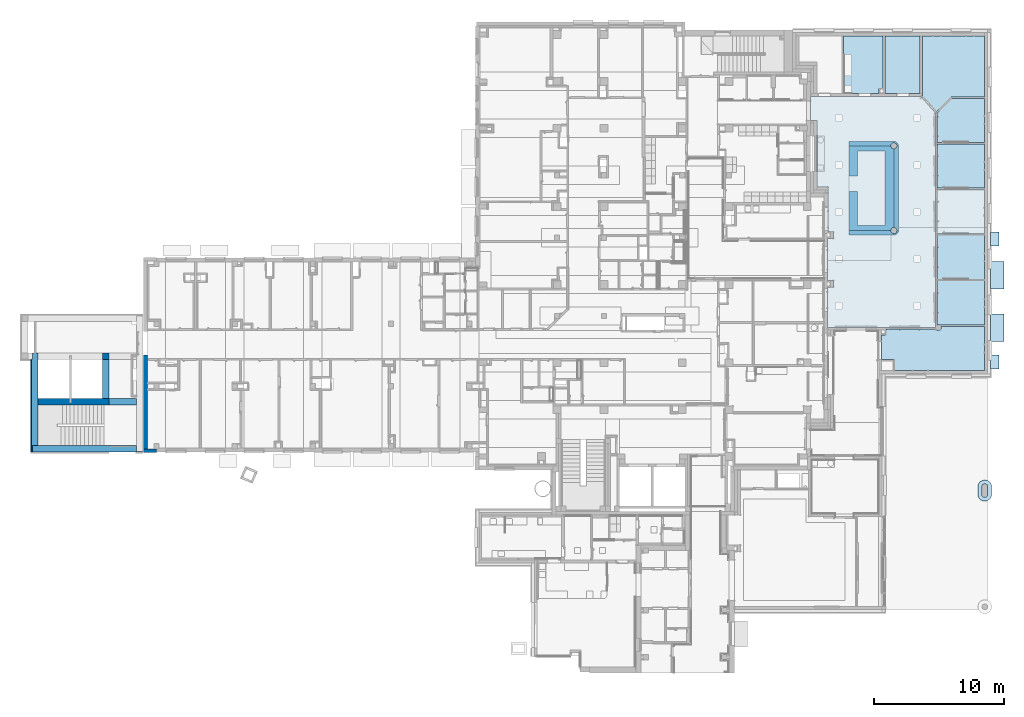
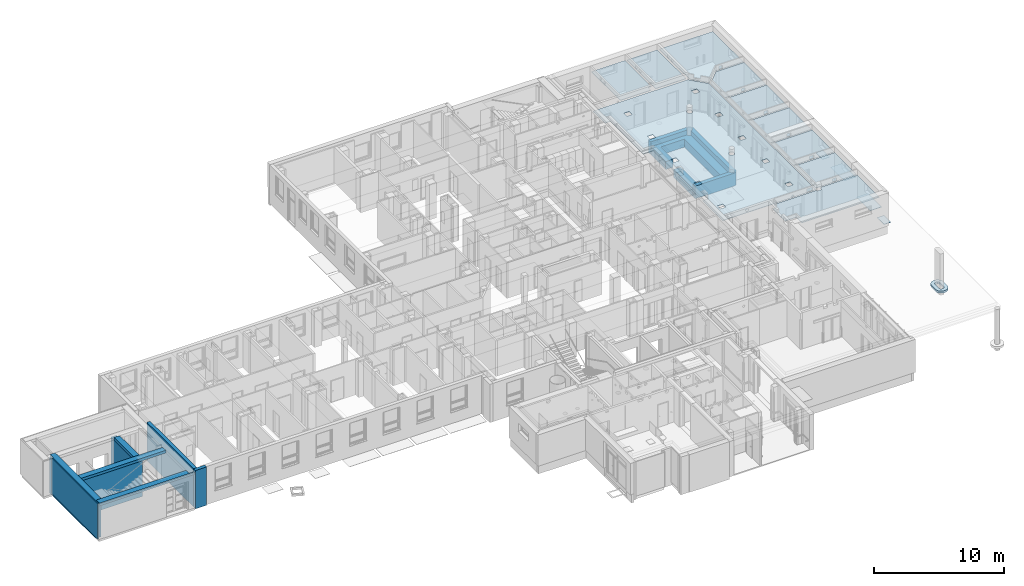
# One storey, part 13 of 140: 17 slabs, 9 walls.
"""IFC4 building model written with IfcOpenShell, lengths in metres."""

from ifc_helpers import new_model, entity, si_unit, converted_unit, derived_unit, frame, frame_2d, origin, origin_with_axes, place, context, subcontext, project, spatial, polyline, rectangle, outline, extrude, clip, bounded_halfspace, material, layer, layer_set, layer_usage, element, save


model = new_model("IFC4")

# Units and contexts
model_context = context("Model", 3, precision=1e-05, world=origin())
body_context = subcontext(model_context, "Body", "Model", "MODEL_VIEW")
ifc_project = project(units=[si_unit("LENGTHUNIT", "METRE"), si_unit("AREAUNIT", "SQUARE_METRE"), si_unit("VOLUMEUNIT", "CUBIC_METRE"), si_unit("MASSUNIT", "GRAM", prefix="KILO"), converted_unit("PLANEANGLEUNIT", "DEGREE", entity("IfcPlaneAngleMeasure", 0.0174532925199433), si_unit("PLANEANGLEUNIT", "RADIAN"), dimensions=[0, 0, 0, 0, 0, 0, 0]), derived_unit("THERMALTRANSMITTANCEUNIT", [(si_unit("POWERUNIT", "WATT"), 1), (si_unit("THERMODYNAMICTEMPERATUREUNIT", "KELVIN"), -1), (si_unit("LENGTHUNIT", "METRE"), -2)]), derived_unit("VOLUMETRICFLOWRATEUNIT", [(si_unit("LENGTHUNIT", "METRE"), 3), (converted_unit("TIMEUNIT", "hour", entity("IfcTimeMeasure", 3600.0), si_unit("TIMEUNIT", "SECOND"), dimensions=[0, 0, 1, 0, 0, 0, 0]), -1), (si_unit("LENGTHUNIT", "METRE"), -1)])], contexts=[model_context])

# Site, building, storey
site_placement = place(None, origin())
site = spatial("IfcSite", under=ifc_project, at=site_placement, Name="3. ASŘ", CompositionType="ELEMENT")
building_placement = place(site_placement, origin())
building = spatial("IfcBuilding", under=site, at=building_placement, Name="Pavilon C", CompositionType="ELEMENT")
storey_placement = place(building_placement, origin())
storey = spatial("IfcBuildingStorey", under=building, at=storey_placement, Name="Půdorys 1.NP", CompositionType="ELEMENT", Elevation=0.0)

# Slabs
ifc_material_1 = material(Name="KRYCÍ ROŠT ANGLICKÉHO DVORKU")
slab_1_placement = place(storey_placement, frame((64.02, 8.845, 0.0)))
element("IfcSlab", 1, at=slab_1_placement, inside=storey, material=ifc_material_1, PredefinedType="FLOOR", context=body_context, shape_type="SweptSolid", body=[
    extrude(rectangle(XDim=1.03000000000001, YDim=2.10999999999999, at=frame_2d((0.514999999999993, 1.05499999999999), x_axis=(1.0, 0.0))), frame((2.18278728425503e-14, 0.0, 0.0), z_axis=(0.0, 0.0, 1.0), x_axis=(1.0, 0.0, 0.0)), (0.0, 0.0, 1.0), 0.03),
])
ifc_material_2 = material(Name="KRYCÍ ROŠT ANGLICKÉHO DVORKU")
slab_2_placement = place(storey_placement, frame((64.02, 12.845, 0.39)))
element("IfcSlab", 2, at=slab_2_placement, inside=storey, material=ifc_material_2, PredefinedType="FLOOR", context=body_context, shape_type="SweptSolid", body=[
    extrude(rectangle(XDim=1.02999999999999, YDim=2.10999999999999, at=frame_2d((0.514999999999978, 1.05499999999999), x_axis=(1.0, -1.41280730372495e-14))), frame((2.18278728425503e-14, 1.45519152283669e-14, 0.0), z_axis=(0.0, 0.0, 1.0), x_axis=(1.0, 0.0, 0.0)), (0.0, 0.0, 1.0), 0.03),
])
ifc_material_3 = material(Name="KRYCÍ ROŠT ANGLICKÉHO DVORKU")
slab_3_placement = place(storey_placement, frame((64.02, 16.17, 0.39)))
element("IfcSlab", 3, at=slab_3_placement, inside=storey, material=ifc_material_3, PredefinedType="FLOOR", context=body_context, shape_type="SweptSolid", body=[
    extrude(rectangle(XDim=0.629999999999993, YDim=1.05999999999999, at=frame_2d((0.314999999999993, 0.529999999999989), x_axis=(1.0, -1.15491390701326e-14))), frame((2.18278728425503e-14, 7.27595761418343e-15, 0.0), z_axis=(0.0, 0.0, 1.0), x_axis=(1.0, 0.0, 0.0)), (0.0, 0.0, 1.0), 0.03),
])
ifc_material_4 = material(Name="KRYCÍ ROŠT ANGLICKÉHO DVORKU")
slab_4_placement = place(storey_placement, frame((64.02, 6.71999999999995, 0.0)))
element("IfcSlab", 4, at=slab_4_placement, inside=storey, material=ifc_material_4, PredefinedType="FLOOR", context=body_context, shape_type="SweptSolid", body=[
    extrude(rectangle(XDim=0.629999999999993, YDim=1.05999999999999, at=frame_2d((0.314999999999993, 0.529999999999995), x_axis=(1.0, 8.66185430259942e-15))), frame((1.45519152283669e-14, 0.0, 0.0), z_axis=(0.0, 0.0, 1.0), x_axis=(1.0, 0.0, 0.0)), (0.0, 0.0, 1.0), 0.03),
])
ifc_material_5 = material(Name="POHLEDOVY BETON")
slab_5_placement = place(storey_placement, frame((63.05, -3.41000000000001, -0.1)))
element("IfcSlab", 5, at=slab_5_placement, inside=storey, material=ifc_material_5, PredefinedType="FLOOR", context=body_context, shape_type="SweptSolid", body=[
    extrude(outline(polyline([(1.02974648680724, 1.24086627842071), (1.00481599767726, 1.30770750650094), (0.970626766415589, 1.3703204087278), (0.927874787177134, 1.42743036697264), (0.877430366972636, 1.47787478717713), (0.820320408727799, 1.52062676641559), (0.757707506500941, 1.55481599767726), (0.690866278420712, 1.57974648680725), (0.621157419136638, 1.59491072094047), (0.55, 1.6), (0.5, 1.6), (0.428842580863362, 1.59491072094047), (0.359133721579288, 1.57974648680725), (0.292292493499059, 1.55481599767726), (0.229679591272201, 1.52062676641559), (0.172569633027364, 1.47787478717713), (0.122125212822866, 1.42743036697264), (0.0793732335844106, 1.3703204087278), (0.0451840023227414, 1.30770750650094), (0.020253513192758, 1.24086627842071), (0.00508927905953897, 1.17115741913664), (0.0, 1.1), (0.0, 0.5), (0.00508927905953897, 0.428842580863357), (0.020253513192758, 0.359133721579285), (0.0451840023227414, 0.292292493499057), (0.0793732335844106, 0.229679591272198), (0.122125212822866, 0.172569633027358), (0.172569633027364, 0.122125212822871), (0.229679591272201, 0.0793732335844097), (0.292292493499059, 0.0451840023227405), (0.359133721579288, 0.0202535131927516), (0.428842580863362, 0.00508927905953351), (0.5, 0.0), (0.55, 0.0), (0.621157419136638, 0.00508927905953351), (0.690866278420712, 0.0202535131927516), (0.757707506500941, 0.0451840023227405), (0.820320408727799, 0.0793732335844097), (0.877430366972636, 0.122125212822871), (0.927874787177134, 0.172569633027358), (0.970626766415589, 0.229679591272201), (1.00481599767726, 0.292292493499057), (1.02974648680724, 0.359133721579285), (1.04491072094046, 0.428842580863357), (1.05, 0.5), (1.05, 1.1), (1.04491072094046, 1.17115741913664), (1.02974648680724, 1.24086627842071)]), holes=[polyline([(0.723205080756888, 0.4), (0.703208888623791, 0.371442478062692), (0.678557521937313, 0.346791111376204), (0.65, 0.326794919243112), (0.618404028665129, 0.312061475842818), (0.584729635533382, 0.303038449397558), (0.55, 0.3), (0.5, 0.3), (0.465270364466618, 0.303038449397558), (0.431595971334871, 0.312061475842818), (0.4, 0.326794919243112), (0.371442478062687, 0.346791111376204), (0.346791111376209, 0.371442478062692), (0.326794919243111, 0.4), (0.312061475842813, 0.431595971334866), (0.303038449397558, 0.465270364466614), (0.3, 0.5), (0.3, 1.1), (0.303038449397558, 1.13472963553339), (0.312061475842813, 1.16840402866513), (0.326794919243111, 1.2), (0.346791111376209, 1.22855752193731), (0.371442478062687, 1.2532088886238), (0.4, 1.27320508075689), (0.431595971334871, 1.28793852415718), (0.465270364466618, 1.29696155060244), (0.5, 1.3), (0.55, 1.3), (0.584729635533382, 1.29696155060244), (0.618404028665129, 1.28793852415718), (0.65, 1.27320508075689), (0.678557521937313, 1.2532088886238), (0.703208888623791, 1.22855752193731), (0.723205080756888, 1.2), (0.737938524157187, 1.16840402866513), (0.746961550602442, 1.13472963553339), (0.75, 1.1), (0.75, 0.5), (0.746961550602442, 0.465270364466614), (0.737938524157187, 0.431595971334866), (0.723205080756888, 0.4)])]), origin_with_axes(), (0.0, 0.0, 1.0), 0.2),
])
ifc_material_6 = material(Name="Pult - sesterna")
slab_6_placement = place(storey_placement, frame((53.15, 17.35, 0.0)))
element("IfcSlab", 6, at=slab_6_placement, inside=storey, material=ifc_material_6, PredefinedType="FLOOR", context=body_context, shape_type="SweptSolid", body=[
    extrude(outline(polyline([(2.75, 0.4), (0.65, 0.400000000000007), (0.65, 3.0), (0.0, 3.0), (0.0, 7.27595761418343e-15), (3.2244275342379, 0.0), (3.23008310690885, 0.0501945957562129), (3.24676623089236, 0.0978722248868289), (3.27364034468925, 0.1406421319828), (3.30935786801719, 0.176359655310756), (3.35212777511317, 0.203233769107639), (3.39980540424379, 0.219916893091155), (3.45, 0.225572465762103), (3.45, 6.27442753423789), (3.39980540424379, 6.28008310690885), (3.35212777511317, 6.29676623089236), (3.30935786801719, 6.32364034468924), (3.27364034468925, 6.3593578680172), (3.24676623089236, 6.40212777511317), (3.23008310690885, 6.44980540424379), (3.2244275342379, 6.5), (0.0, 6.5), (0.0, 4.2), (0.65, 4.2), (0.65, 6.1), (2.75, 6.1), (2.75, 0.4)])), origin_with_axes(), (0.0, 0.0, 1.0), 0.75),
])
ifc_material_7 = material(Name="Pult - sesterna")
slab_7_placement = place(storey_placement, frame((53.15, 17.0, 0.0)))
element("IfcSlab", 7, at=slab_7_placement, inside=storey, material=ifc_material_7, PredefinedType="FLOOR", context=body_context, shape_type="SweptSolid", body=[
    extrude(outline(polyline([(3.51077686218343, 7.19468271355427), (3.45, 7.2), (0.0, 7.2), (0.0, 6.85), (3.2244275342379, 6.85), (3.2278544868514, 6.88917024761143), (3.23803121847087, 6.92715032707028), (3.25464851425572, 6.96278623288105), (3.27720146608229, 6.99499518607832), (3.30500481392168, 7.02279853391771), (3.33721376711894, 7.04535148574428), (3.37284967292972, 7.06196878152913), (3.41082975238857, 7.0721455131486), (3.45, 7.0755724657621), (3.48917024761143, 7.0721455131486), (3.52715032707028, 7.06196878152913), (3.56278623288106, 7.04535148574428), (3.59499518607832, 7.02279853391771), (3.62279853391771, 6.99499518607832), (3.64535148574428, 6.96278623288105), (3.66196878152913, 6.92715032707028), (3.6721455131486, 6.88917024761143), (3.6755724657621, 6.85), (3.6721455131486, 6.81082975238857), (3.66196878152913, 6.77284967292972), (3.64535148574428, 6.73721376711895), (3.62279853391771, 6.70500481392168), (3.59499518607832, 6.67720146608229), (3.56278623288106, 6.65464851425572), (3.52715032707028, 6.63803121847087), (3.48917024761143, 6.6278544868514), (3.45, 6.62442753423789), (3.45, 0.575572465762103), (3.48917024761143, 0.5721455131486), (3.52715032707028, 0.561968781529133), (3.56278623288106, 0.545351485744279), (3.59499518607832, 0.522798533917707), (3.62279853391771, 0.494995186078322), (3.64535148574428, 0.462786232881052), (3.66196878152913, 0.427150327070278), (3.6721455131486, 0.389170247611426), (3.6755724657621, 0.35), (3.6721455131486, 0.310829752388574), (3.66196878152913, 0.272849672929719), (3.64535148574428, 0.237213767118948), (3.62279853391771, 0.205004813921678), (3.59499518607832, 0.177201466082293), (3.56278623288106, 0.154648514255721), (3.52715032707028, 0.138031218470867), (3.48917024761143, 0.1278544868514), (3.45, 0.124427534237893), (3.41082975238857, 0.1278544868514), (3.37284967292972, 0.138031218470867), (3.33721376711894, 0.154648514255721), (3.30500481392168, 0.177201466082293), (3.27720146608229, 0.205004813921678), (3.25464851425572, 0.237213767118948), (3.23803121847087, 0.272849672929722), (3.2278544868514, 0.310829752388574), (3.2244275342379, 0.35), (0.0, 0.350000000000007), (0.0, 7.27595761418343e-15), (3.45, 0.0), (3.51077686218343, 0.00531728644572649), (3.56970705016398, 0.0211075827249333), (3.625, 0.0468911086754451), (3.67497566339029, 0.081884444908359), (3.71811555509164, 0.125024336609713), (3.75310889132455, 0.175), (3.77889241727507, 0.230292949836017), (3.79468271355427, 0.289223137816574), (3.8, 0.35), (3.8, 6.85), (3.79468271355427, 6.91077686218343), (3.77889241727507, 6.96970705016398), (3.75310889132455, 7.025), (3.71811555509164, 7.07497566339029), (3.67497566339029, 7.11811555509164), (3.625, 7.15310889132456), (3.56970705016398, 7.17889241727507), (3.51077686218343, 7.19468271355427)])), origin_with_axes(), (0.0, 0.0, 1.0), 1.2),
])
ifc_material_8 = material(Name="Kazetový podhled hyg. 0,6×0,6")
slab_8_placement = place(storey_placement, frame((55.65, 6.59999999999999, 2.8)))
element("IfcSlab", 8, at=slab_8_placement, inside=storey, material=ifc_material_8, PredefinedType="FLOOR", context=body_context, shape_type="SweptSolid", body=[
    extrude(outline(polyline([(7.9, 0.0), (7.89999999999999, 3.4), (4.55, 3.4), (4.55, 3.1), (4.15, 3.1), (4.15, 3.2), (0.35, 3.2), (0.35, 2.75), (0.0, 2.75), (0.0, 0.85), (1.0, 0.85), (1.0, 0.0), (7.9, 0.0)])), origin_with_axes(), (0.0, 0.0, 1.0), 0.05),
])
ifc_material_9 = material(Name="Kazetový podhled hyg. 0,6×0,6")
slab_9_placement = place(storey_placement, frame((59.9, 10.1, 2.8)))
element("IfcSlab", 9, at=slab_9_placement, inside=storey, material=ifc_material_9, PredefinedType="FLOOR", context=body_context, shape_type="SweptSolid", body=[
    extrude(rectangle(XDim=3.4, YDim=3.65, at=frame_2d((-1.825, 1.7), x_axis=(0.0, 1.0))), frame((3.65, 0.0, 0.0), z_axis=(0.0, 0.0, 1.0), x_axis=(1.0, 0.0, 0.0)), (0.0, 0.0, 1.0), 0.05),
])
ifc_material_10 = material(Name="Kazetový podhled hyg. 0,6×0,6")
slab_10_placement = place(storey_placement, frame((59.9, 13.6, 2.8)))
element("IfcSlab", 10, at=slab_10_placement, inside=storey, material=ifc_material_10, PredefinedType="FLOOR", context=body_context, shape_type="SweptSolid", body=[
    extrude(rectangle(XDim=3.65, YDim=3.4, at=frame_2d((-1.825, -1.7), x_axis=(-1.0, 0.0))), frame((3.65, 3.4, 0.0), z_axis=(0.0, 0.0, 1.0), x_axis=(1.0, 0.0, 0.0)), (0.0, 0.0, 1.0), 0.05),
])
ifc_material_11 = material(Name="Kazetový podhled hyg. 0,6×0,6")
slab_11_placement = place(storey_placement, frame((59.9, 17.1, 2.8)))
element("IfcSlab", 11, at=slab_11_placement, inside=storey, material=ifc_material_11, PredefinedType="FLOOR", context=body_context, shape_type="SweptSolid", body=[
    extrude(rectangle(XDim=3.65, YDim=3.4, at=frame_2d((-1.825, -1.7), x_axis=(-1.0, 0.0))), frame((3.65, 3.4, 0.0), z_axis=(0.0, 0.0, 1.0), x_axis=(1.0, 0.0, 0.0)), (0.0, 0.0, 1.0), 0.05),
])
ifc_material_12 = material(Name="Kazetový podhled hyg. 0,6×0,6")
slab_12_placement = place(storey_placement, frame((59.9, 20.6, 2.8)))
element("IfcSlab", 12, at=slab_12_placement, inside=storey, material=ifc_material_12, PredefinedType="FLOOR", context=body_context, shape_type="SweptSolid", body=[
    extrude(rectangle(XDim=3.65, YDim=3.4, at=frame_2d((-1.825, -1.7), x_axis=(-1.0, 0.0))), frame((3.65, 3.4, 0.0), z_axis=(0.0, 0.0, 1.0), x_axis=(1.0, 0.0, 0.0)), (0.0, 0.0, 1.0), 0.05),
])
ifc_material_13 = material(Name="Kazetový podhled hyg. 0,6×0,6")
slab_13_placement = place(storey_placement, frame((59.9, 24.1, 2.8)))
element("IfcSlab", 13, at=slab_13_placement, inside=storey, material=ifc_material_13, PredefinedType="FLOOR", context=body_context, shape_type="SweptSolid", body=[
    extrude(outline(polyline([(3.65, 3.4), (1.15416305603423, 3.4), (0.0, 2.24066793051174), (0.0, 0.0), (3.65, 0.0), (3.65, 3.4)])), origin_with_axes(), (0.0, 0.0, 1.0), 0.05),
])
ifc_material_14 = material(Name="Kazetový podhled bílý 0,6×0,6")
slab_14_placement = place(storey_placement, frame((55.9, 27.85, 2.8)))
element("IfcSlab", 14, at=slab_14_placement, inside=storey, material=ifc_material_14, PredefinedType="FLOOR", context=body_context, shape_type="SweptSolid", body=[
    extrude(rectangle(XDim=2.7, YDim=4.45, at=frame_2d((-1.35, -2.225), x_axis=(-1.0, 0.0))), frame((2.7, 4.45, 0.0), z_axis=(0.0, 0.0, 1.0), x_axis=(1.0, 0.0, 0.0)), (0.0, 0.0, 1.0), 0.05),
])
ifc_material_15 = material(Name="Kazetový podhled hyg. 0,6×0,6")
slab_15_placement = place(storey_placement, frame((58.8, 26.4580705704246, 2.8)))
element("IfcSlab", 15, at=slab_15_placement, inside=storey, material=ifc_material_15, PredefinedType="FLOOR", context=body_context, shape_type="SweptSolid", body=[
    extrude(outline(polyline([(0.0, 5.84192942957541), (0.0, 1.19192942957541), (1.07081227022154, 0.0), (2.21274169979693, 1.14192942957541), (4.74999999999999, 1.14192942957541), (4.74999999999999, 5.84192942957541), (0.0, 5.84192942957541)])), origin_with_axes(), (0.0, 0.0, 1.0), 0.05),
])
ifc_material_16 = material(Name="Kazetový podhled bílý 0,6×0,6")
slab_16_placement = place(storey_placement, frame((52.75, 27.85, 2.8)))
element("IfcSlab", 16, at=slab_16_placement, inside=storey, material=ifc_material_16, PredefinedType="FLOOR", context=body_context, shape_type="SweptSolid", body=[
    extrude(outline(polyline([(3.0, 0.405), (3.0, 4.45), (0.0, 4.45), (0.0, 0.0), (2.725, 0.0), (2.725, 0.405), (3.0, 0.405)])), origin_with_axes(), (0.0, 0.0, 1.0), 0.05),
])
ifc_material_17 = material(Name="Kazetový podhled hyg. 0,6×0,6")
slab_17_placement = place(storey_placement, frame((50.2, 9.89999999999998, 2.8)))
element("IfcSlab", 17, at=slab_17_placement, inside=storey, material=ifc_material_17, PredefinedType="FLOOR", context=body_context, shape_type="SweptSolid", body=[
    extrude(outline(polyline([(0.48, 15.9), (0.48, 10.8), (1.35, 10.8), (1.35, 7.35000000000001), (1.78, 7.35000000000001), (1.78, 6.85000000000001), (1.3, 6.85000000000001), (1.3, 3.60000000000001), (1.78, 3.60000000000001), (1.78, 3.10000000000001), (1.3, 3.10000000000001), (1.3, 0.0), (9.59999999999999, 3.63797880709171e-15), (9.59999999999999, 16.487258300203), (8.4655834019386, 17.75), (0.0, 17.75), (0.0, 15.9), (0.48, 15.9)]), holes=[polyline([(7.92999999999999, 15.84), (7.92999999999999, 16.31), (8.39999999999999, 16.31), (8.39999999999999, 15.84), (7.92999999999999, 15.84)]), polyline([(1.92999999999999, 16.31), (2.39999999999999, 16.31), (2.39999999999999, 15.84), (1.92999999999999, 15.84), (1.92999999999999, 16.31)]), polyline([(8.39999999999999, 1.91000000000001), (8.39999999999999, 1.44000000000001), (7.92999999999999, 1.44000000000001), (7.92999999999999, 1.91000000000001), (8.39999999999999, 1.91000000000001)]), polyline([(2.39999999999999, 1.44000000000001), (1.92999999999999, 1.44000000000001), (1.92999999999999, 1.91000000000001), (2.39999999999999, 1.91000000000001), (2.39999999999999, 1.44000000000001)]), polyline([(1.92999999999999, 5.51000000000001), (2.39999999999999, 5.51000000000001), (2.39999999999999, 5.04000000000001), (1.92999999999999, 5.04000000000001), (1.92999999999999, 5.51000000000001)]), polyline([(8.39999999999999, 8.64000000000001), (7.92999999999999, 8.64000000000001), (7.92999999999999, 9.11000000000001), (8.39999999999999, 9.11000000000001), (8.39999999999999, 8.64000000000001)]), polyline([(7.92999999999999, 5.51000000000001), (8.39999999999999, 5.51000000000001), (8.39999999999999, 5.04000000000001), (7.92999999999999, 5.04000000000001), (7.92999999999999, 5.51000000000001)]), polyline([(1.92999999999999, 9.11000000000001), (2.39999999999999, 9.11000000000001), (2.39999999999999, 8.64000000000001), (1.92999999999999, 8.64000000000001), (1.92999999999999, 9.11000000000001)]), polyline([(2.39999999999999, 12.24), (1.92999999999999, 12.24), (1.92999999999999, 12.71), (2.39999999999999, 12.71), (2.39999999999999, 12.24)]), polyline([(7.92999999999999, 12.24), (7.92999999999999, 12.71), (8.39999999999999, 12.71), (8.39999999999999, 12.24), (7.92999999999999, 12.24)]), polyline([(6.55950382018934, 7.29049617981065), (6.52938305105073, 7.26522185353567), (6.49533104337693, 7.24556191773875), (6.45838245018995, 7.23211372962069), (6.4196599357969, 7.22528590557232), (6.38034006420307, 7.22528590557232), (6.34161754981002, 7.23211372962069), (6.30466895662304, 7.24556191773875), (6.27061694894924, 7.26522185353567), (6.24049617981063, 7.29049617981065), (6.21522185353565, 7.32061694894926), (6.19556191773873, 7.35466895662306), (6.18211372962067, 7.39161754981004), (6.1752859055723, 7.43034006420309), (6.1752859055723, 7.46965993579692), (6.18211372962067, 7.50838245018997), (6.19556191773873, 7.54533104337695), (6.21522185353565, 7.57938305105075), (6.24049617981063, 7.60950382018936), (6.27061694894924, 7.63477814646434), (6.30466895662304, 7.65443808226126), (6.34161754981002, 7.66788627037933), (6.38034006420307, 7.67471409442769), (6.4196599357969, 7.67471409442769), (6.45838245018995, 7.66788627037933), (6.49533104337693, 7.65443808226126), (6.52938305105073, 7.63477814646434), (6.55950382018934, 7.60950382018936), (6.58477814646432, 7.57938305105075), (6.60443808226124, 7.54533104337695), (6.61788627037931, 7.50838245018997), (6.62471409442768, 7.46965993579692), (6.62471409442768, 7.43034006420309), (6.61788627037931, 7.39161754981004), (6.60443808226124, 7.35466895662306), (6.58477814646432, 7.32061694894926), (6.55950382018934, 7.29049617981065)]), polyline([(6.62471409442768, 13.9303400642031), (6.61788627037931, 13.89161754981), (6.60443808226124, 13.8546689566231), (6.58477814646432, 13.8206169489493), (6.55950382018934, 13.7904961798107), (6.52938305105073, 13.7652218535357), (6.49533104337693, 13.7455619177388), (6.45838245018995, 13.7321137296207), (6.4196599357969, 13.7252859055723), (6.38034006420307, 13.7252859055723), (6.34161754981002, 13.7321137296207), (6.30466895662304, 13.7455619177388), (6.27061694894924, 13.7652218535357), (6.24049617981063, 13.7904961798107), (6.21522185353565, 13.8206169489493), (6.19556191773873, 13.8546689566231), (6.18211372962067, 13.89161754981), (6.1752859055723, 13.9303400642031), (6.1752859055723, 13.9696599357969), (6.18211372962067, 14.00838245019), (6.19556191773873, 14.0453310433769), (6.21522185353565, 14.0793830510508), (6.24049617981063, 14.1095038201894), (6.27061694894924, 14.1347781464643), (6.30466895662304, 14.1544380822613), (6.34161754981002, 14.1678862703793), (6.38034006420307, 14.1747140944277), (6.4196599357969, 14.1747140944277), (6.45838245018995, 14.1678862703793), (6.49533104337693, 14.1544380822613), (6.52938305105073, 14.1347781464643), (6.55950382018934, 14.1095038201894), (6.58477814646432, 14.0793830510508), (6.60443808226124, 14.0453310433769), (6.61788627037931, 14.00838245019), (6.62471409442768, 13.9696599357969), (6.62471409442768, 13.9303400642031)])]), origin_with_axes(), (0.0, 0.0, 1.0), 0.05),
])

# Walls
ifc_material_18 = material(Name="ZDIVO Z CDm")
ifc_layer_1 = layer(ifc_material_18, 0.5)
ifc_layer_set_1 = layer_set([ifc_layer_1])
ifc_layer_usage_1 = layer_usage(ifc_layer_set_1, "AXIS2", "POSITIVE", 0.0)
wall_1_placement = place(storey_placement, frame((-9.07499999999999, 3.95, -0.22)))
element("IfcWall", 18, at=wall_1_placement, inside=storey, material=ifc_layer_usage_1, Name="ZDIVO Z CDm", context=body_context, shape_type="SweptSolid", body=[
    extrude(rectangle(XDim=5.45, YDim=0.5, at=frame_2d((2.725, 0.25), x_axis=(1.0, 0.0))), origin_with_axes(), (0.0, 0.0, 1.0), 3.35),
])
ifc_material_19 = material(Name="ZDIVO Z CDm")
ifc_layer_2 = layer(ifc_material_19, 0.5)
ifc_layer_set_2 = layer_set([ifc_layer_2])
ifc_layer_usage_2 = layer_usage(ifc_layer_set_2, "AXIS2", "POSITIVE", 0.0)
wall_2_placement = place(storey_placement, frame((-3.62499999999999, 4.45, -0.22), z_axis=(0.0, 0.0, 1.0), x_axis=(0.0, 1.0, 0.0)))
element("IfcWall", 19, at=wall_2_placement, inside=storey, material=ifc_layer_usage_2, Name="ZDIVO Z CDm", context=body_context, shape_type="SweptSolid", body=[
    extrude(rectangle(XDim=3.5, YDim=0.5, at=frame_2d((1.75, 0.25), x_axis=(1.0, 0.0))), origin_with_axes(), (0.0, 0.0, 1.0), 3.35),
])
ifc_material_20 = material(Name="ZELEZOBETONOVÁ KCE")
ifc_layer_3 = layer(ifc_material_20, 0.3)
ifc_layer_set_3 = layer_set([ifc_layer_3])
ifc_layer_usage_3 = layer_usage(ifc_layer_set_3, "AXIS2", "POSITIVE", 0.0)
wall_3_placement = place(storey_placement, frame((-0.699999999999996, 0.600000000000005, -0.1), z_axis=(0.0, 0.0, 1.0), x_axis=(6.31593542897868e-17, 1.0, 0.0)))
element("IfcWall", 20, at=wall_3_placement, inside=storey, material=ifc_layer_usage_3, Name="ZELEZOBETONOVÁ KCE", context=body_context, shape_type="SweptSolid", body=[
    extrude(rectangle(XDim=7.19999999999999, YDim=0.3, at=frame_2d((3.6, 0.15), x_axis=(1.0, 0.0))), origin_with_axes(), (0.0, 0.0, 1.0), 3.6),
])
ifc_material_21 = material(Name="ZELEZOBETONOVÁ KCE")
ifc_layer_4 = layer(ifc_material_21, 0.3)
ifc_layer_set_4 = layer_set([ifc_layer_4])
ifc_layer_usage_4 = layer_usage(ifc_layer_set_4, "AXIS2", "POSITIVE", 0.0)
wall_4_placement = place(storey_placement, frame((-0.999999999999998, 0.300000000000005, -0.1)))
element("IfcWall", 21, at=wall_4_placement, inside=storey, material=ifc_layer_usage_4, Name="ZELEZOBETONOVÁ KCE", context=body_context, shape_type="SweptSolid", body=[
    extrude(rectangle(XDim=1.0, YDim=0.3, at=frame_2d((0.500000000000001, 0.15), x_axis=(1.0, 0.0))), origin_with_axes(), (0.0, 0.0, 1.0), 3.6),
])
ifc_material_22 = material(Name="EPS")
ifc_layer_5 = layer(ifc_material_22, 0.0999999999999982)
ifc_material_23 = material(Name="ZDIVO Z CDm")
ifc_layer_6 = layer(ifc_material_23, 0.499999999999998)
ifc_layer_set_5 = layer_set([ifc_layer_5, ifc_layer_6])
ifc_layer_usage_5 = layer_usage(ifc_layer_set_5, "AXIS2", "POSITIVE", 0.0)
wall_5_placement = place(storey_placement, frame((-9.67499999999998, 7.45000000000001, -0.22), z_axis=(0.0, 0.0, 1.0), x_axis=(-1.28097845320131e-15, -1.0, 0.0)))
element("IfcWall", 22, at=wall_5_placement, inside=storey, material=ifc_layer_usage_5, Name="ZDIVO Z CDm", context=body_context, shape_type="Clipping", body=[
    clip(clip(extrude(outline(polyline([(-7.1, 0.0), (0.0, 0.0), (-1.28097845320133e-16, 0.100000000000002), (-0.5, 0.100000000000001), (-0.500000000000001, 0.599999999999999), (-7.6, 0.599999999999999), (-7.6, 0.0999999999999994), (-7.1, 0.1), (-7.1, 0.0)])), frame((7.1, 0.0, 0.0), z_axis=(0.0, 0.0, 1.0), x_axis=(1.0, 0.0, 0.0)), (0.0, 0.0, 1.0), 3.6), bounded_halfspace(frame((4.16, 0.0600000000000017, 0.27), z_axis=(0.0, 0.0, 1.0), x_axis=(-1.0, -1.78560632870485e-16, 0.0)), True, origin_with_axes(), polyline([(6.6, 0.100000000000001), (-1.28097845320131e-16, 0.1), (0.0, 0.0), (7.1, 1.61558713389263e-30), (7.1, 0.100000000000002), (6.6, 0.100000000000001)]))), bounded_halfspace(frame((2.44, 0.299999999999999, 3.35), z_axis=(0.0, 0.0, -1.0), x_axis=(1.0, 1.78560632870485e-16, 0.0)), True, origin_with_axes(), polyline([(-1.28097845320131e-16, 0.1), (6.6, 0.100000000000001), (6.6, 0.599999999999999), (-0.499999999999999, 0.599999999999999), (-0.499999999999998, 0.0999999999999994), (-1.28097845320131e-16, 0.1)]))),
])
ifc_material_24 = material(Name="ZELEZOBETONOVÁ KCE")
ifc_layer_7 = layer(ifc_material_24, 0.5)
ifc_layer_set_6 = layer_set([ifc_layer_7])
ifc_layer_usage_6 = layer_usage(ifc_layer_set_6, "AXIS2", "POSITIVE", 0.0)
wall_6_placement = place(storey_placement, frame((-1.52499999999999, 4.45, 3.13), z_axis=(0.0, 0.0, 1.0), x_axis=(-1.0, 0.0, 0.0)))
element("IfcWall", 23, at=wall_6_placement, inside=storey, material=ifc_layer_usage_6, context=body_context, shape_type="SweptSolid", body=[
    extrude(rectangle(XDim=7.55, YDim=0.5, at=frame_2d((3.775, 0.25), x_axis=(1.0, 0.0))), origin_with_axes(), (0.0, 0.0, 1.0), 0.25),
])
ifc_material_25 = material(Name="ZELEZOBETONOVÁ KCE")
ifc_layer_8 = layer(ifc_material_25, 0.5)
ifc_layer_set_7 = layer_set([ifc_layer_8])
ifc_layer_usage_7 = layer_usage(ifc_layer_set_7, "AXIS2", "POSITIVE", 0.0)
wall_7_placement = place(storey_placement, frame((-4.12499999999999, 7.45, 3.13), z_axis=(0.0, 0.0, 1.0), x_axis=(0.0, -1.0, 0.0)))
element("IfcWall", 24, at=wall_7_placement, inside=storey, material=ifc_layer_usage_7, context=body_context, shape_type="SweptSolid", body=[
    extrude(rectangle(XDim=3.0, YDim=0.5, at=frame_2d((1.5, 0.25), x_axis=(1.0, 0.0))), origin_with_axes(), (0.0, 0.0, 1.0), 0.25),
])
ifc_material_26 = material(Name="ZELEZOBETONOVÁ KCE")
ifc_layer_9 = layer(ifc_material_26, 0.45)
ifc_material_27 = material(Name="LIGNOPOR")
ifc_layer_10 = layer(ifc_material_27, 0.0499999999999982)
ifc_layer_set_8 = layer_set([ifc_layer_9, ifc_layer_10])
ifc_layer_usage_8 = layer_usage(ifc_layer_set_8, "AXIS2", "POSITIVE", 0.0)
wall_8_placement = place(storey_placement, frame((-9.075, 0.850000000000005, 3.13), z_axis=(0.0, 0.0, 1.0), x_axis=(1.02478276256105e-15, 1.0, 0.0)))
element("IfcWall", 25, at=wall_8_placement, inside=storey, material=ifc_layer_usage_8, context=body_context, shape_type="SweptSolid", body=[
    extrude(outline(polyline([(0.450000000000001, -0.5), (7.55, -0.5), (7.55, -0.0499999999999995), (7.1, -0.05), (7.1, 0.0), (0.0, 0.0), (5.12391381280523e-17, -0.05), (0.45, -0.0499999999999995), (0.450000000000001, -0.5)])), frame((-0.450000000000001, 0.5, 0.0), z_axis=(0.0, 0.0, 1.0), x_axis=(1.0, 0.0, 0.0)), (0.0, 0.0, 1.0), 0.25),
])
ifc_material_28 = material(Name="ZELEZOBETONOVÁ KCE")
ifc_layer_11 = layer(ifc_material_28, 0.45)
ifc_material_29 = material(Name="LIGNOPOR")
ifc_layer_12 = layer(ifc_material_29, 0.05)
ifc_layer_set_9 = layer_set([ifc_layer_11, ifc_layer_12])
ifc_layer_usage_9 = layer_usage(ifc_layer_set_9, "AXIS2", "POSITIVE", 0.0)
wall_9_placement = place(storey_placement, frame((-1.525, 0.850000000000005, 3.13), z_axis=(0.0, 0.0, 1.0), x_axis=(-1.0, 0.0, 0.0)))
element("IfcWall", 26, at=wall_9_placement, inside=storey, material=ifc_layer_usage_9, context=body_context, shape_type="SweptSolid", body=[
    extrude(outline(polyline([(-8.05, -0.5), (-0.05, -0.5), (-0.05, -0.05), (0.0, -0.05), (0.0, 0.0), (-8.5, 0.0), (-8.5, -0.05), (-8.05, -0.05), (-8.05, -0.5)])), frame((8.05, 0.5, 0.0), z_axis=(0.0, 0.0, 1.0), x_axis=(1.0, 0.0, 0.0)), (0.0, 0.0, 1.0), 0.25),
])

save(model, "model.ifc")
